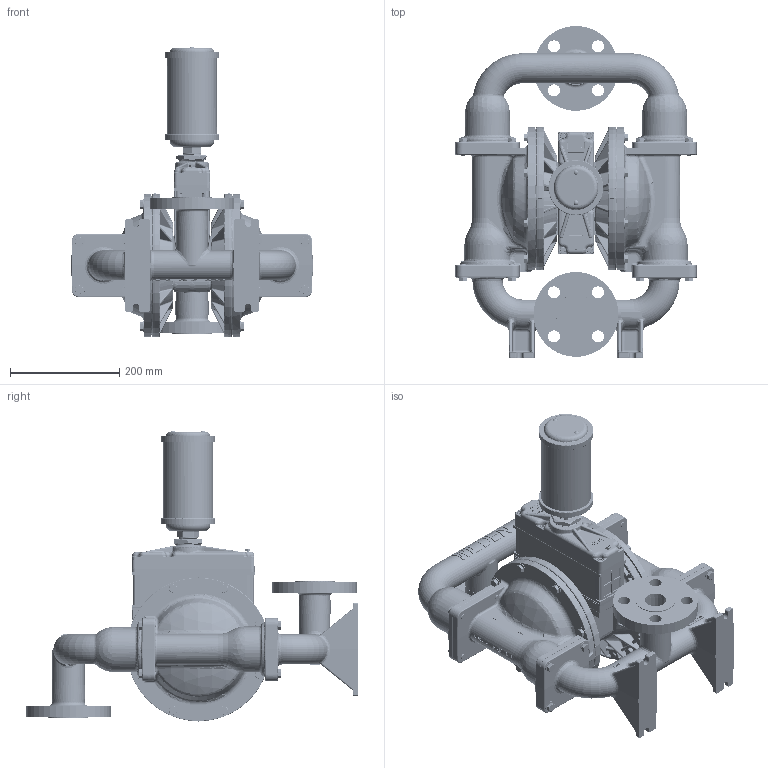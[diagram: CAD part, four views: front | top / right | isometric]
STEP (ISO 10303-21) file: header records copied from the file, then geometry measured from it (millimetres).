
FILE_DESCRIPTION (( 'STEP AP203' ), '1' );
FILE_NAME ('hs430s_alum_top 2.STEP', '2022-07-04T15:15:16', ( '' ), ( '' ), 'SwSTEP 2.0', 'SolidWorks 2019', '' );
FILE_SCHEMA (( 'CONFIG_CONTROL_DESIGN' ));
Products named in the file (1): hs430s_alum_top 2
Bounding box: 442.46 x 608.61 x 533.53 mm (x, y, z)
Surface area: 1175332.3 mm2 (no closed solid volume)
Topology: 0 solids, 11 shells, 11258 faces, 29380 edges, 18514 vertices
Faces by surface type: plane 5938, cylinder 1806, bspline 1454, torus 971, cone 835, sphere 254
Entity records: 561321 total; most frequent: CARTESIAN_POINT 351939, ORIENTED_EDGE 58696, EDGE_CURVE 29358, B_SPLINE_CURVE_WITH_KNOTS 28512, DIRECTION 19618, VERTEX_POINT 18512, EDGE_LOOP 11757, ADVANCED_FACE 11258
